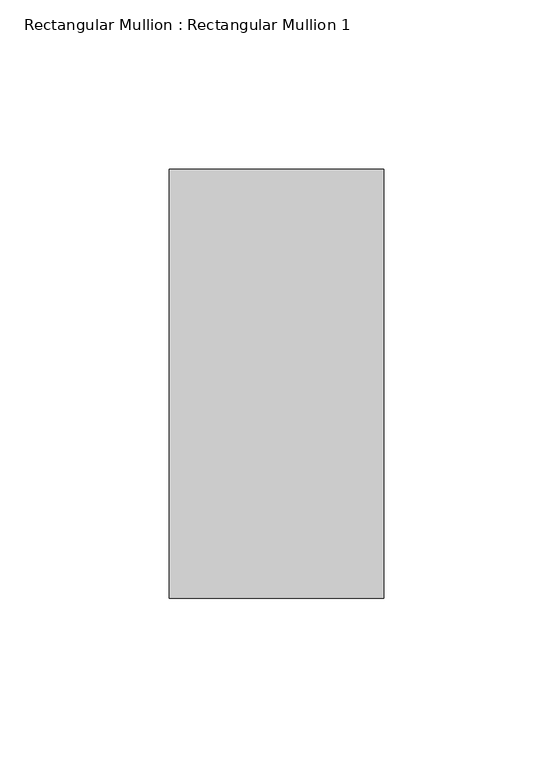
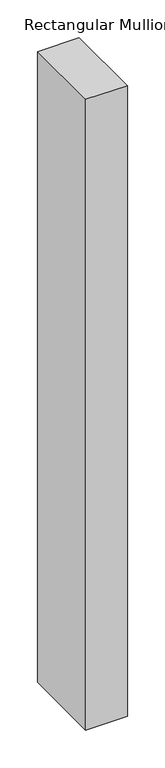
"""IFC4 building model written with IfcOpenShell, lengths in millimetres: member geometry, Rectangular Mullion : Rectangular Mullion 1."""

from ifc_helpers import new_model, si_unit, frame, origin, place, context, project, spatial, polyline, outline, extrude, source, transform, mapped, element, save


def rectangular_mullion_rectangular_mullion_1_7b22c351(model_context):
    return source(origin(), model_context, "Body", "SweptSolid", [
        extrude(outline(polyline([(0.0, 63.5), (0.0, -63.5), (-63.5, -63.5), (-63.5, 63.5), (0.0, 63.5)])), frame((0.0, 0.0, -1016.9071426), z_axis=(0.0, 0.0, 1.0), x_axis=(1.0, 0.0, 0.0)), (0.0, 0.0, 1.0), 1016.9071426),
    ])


if __name__ == "__main__":
    model = new_model("IFC4")
    model_context = context("Model", 3, world=origin())
    ifc_project = project(units=[si_unit("LENGTHUNIT", "METRE", prefix="MILLI")], contexts=[model_context])
    site = spatial("IfcSite", under=ifc_project)
    building = spatial("IfcBuilding", under=site)
    placement = place(None, origin())
    rectangular_mullion_rectangular_mullion_1_shape = rectangular_mullion_rectangular_mullion_1_7b22c351(model_context)
    element("IfcMember", 1, ObjectType="Rectangular Mullion : Rectangular Mullion 1", at=placement, inside=building, context=model_context, shape_type="MappedRepresentation", body=[
        mapped(rectangular_mullion_rectangular_mullion_1_shape, transform((0.0, 0.0, 0.0), x_axis=(1.0, 0.0, 0.0), y_axis=(0.0, 1.0, 0.0), z_axis=(0.0, 0.0, 1.0))),
    ])
    save(model, "model.ifc")
